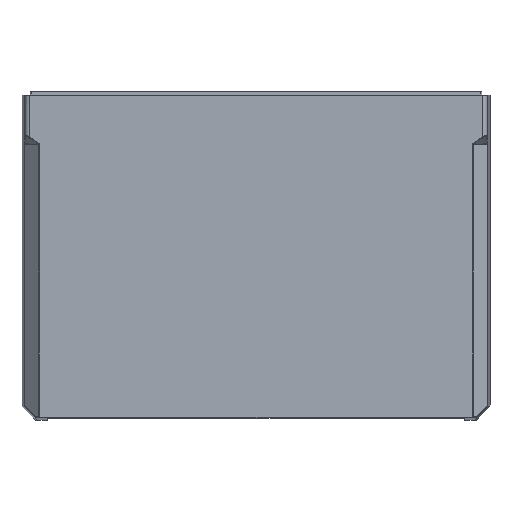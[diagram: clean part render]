
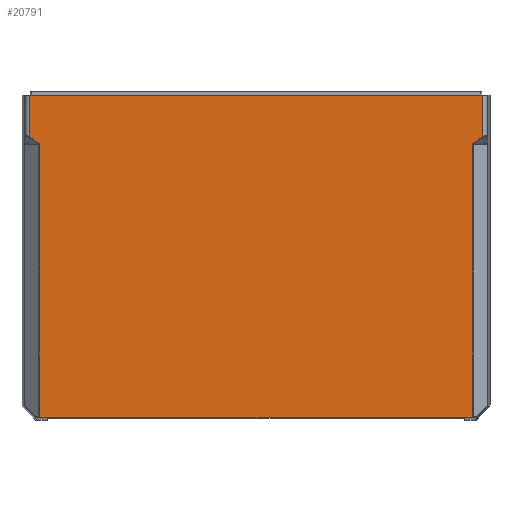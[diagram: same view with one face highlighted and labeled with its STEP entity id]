
A CAD part, front view. The second image highlights one B-rep face of the part: STEP entity #20791.
In plain terms, the highlighted planar face has unit normal (0, -1, 0).
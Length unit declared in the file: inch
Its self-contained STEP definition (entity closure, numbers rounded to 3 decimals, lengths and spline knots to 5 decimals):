
#369 = VECTOR ( 'NONE', #27700, 39.37008 ) ;
#1056 = LINE ( 'NONE', #10279, #369 ) ;
#1167 = VERTEX_POINT ( 'NONE', #24448 ) ;
#1895 = ORIENTED_EDGE ( 'NONE', *, *, #17209, .T. ) ;
#2364 = EDGE_CURVE ( 'NONE', #2920, #4524, #18246, .T. ) ;
#2920 = VERTEX_POINT ( 'NONE', #17864 ) ;
#3104 = EDGE_CURVE ( 'NONE', #5034, #1167, #20890, .T. ) ;
#3429 = VECTOR ( 'NONE', #19170, 39.37008 ) ;
#3485 = CARTESIAN_POINT ( 'NONE',  ( 4.27972, -1.181, 2.2224 ) ) ;
#4220 = EDGE_CURVE ( 'NONE', #8399, #21136, #4410, .T. ) ;
#4410 =( BOUNDED_CURVE ( )  B_SPLINE_CURVE ( 3, ( #20938, #3485, #5784, #23124 ),
 .UNSPECIFIED., .F., .F. ) 
 B_SPLINE_CURVE_WITH_KNOTS ( ( 4, 4 ),
 ( 2.35619, 3.14159 ),
 .UNSPECIFIED. ) 
 CURVE ( )  GEOMETRIC_REPRESENTATION_ITEM ( )  RATIONAL_B_SPLINE_CURVE ( ( 1., 0.949, 0.949, 1. ) ) 
 REPRESENTATION_ITEM ( '' )  );
#4524 = VERTEX_POINT ( 'NONE', #11111 ) ;
#5003 = LINE ( 'NONE', #21153, #11428 ) ;
#5034 = VERTEX_POINT ( 'NONE', #6546 ) ;
#5648 = ORIENTED_EDGE ( 'NONE', *, *, #25730, .T. ) ;
#5784 = CARTESIAN_POINT ( 'NONE',  ( 4.27374, -1.181, 2.21247 ) ) ;
#5943 = CARTESIAN_POINT ( 'NONE',  ( 4.25377, -1.181, -3.18811 ) ) ;
#5962 = AXIS2_PLACEMENT_3D ( 'NONE', #15246, #26182, #13182 ) ;
#6212 = CARTESIAN_POINT ( 'NONE',  ( -4.27374, -1.181, 2.20172 ) ) ;
#6546 = CARTESIAN_POINT ( 'NONE',  ( -4.4777, -1.181, 2.35868 ) ) ;
#6968 = ORIENTED_EDGE ( 'NONE', *, *, #25136, .F. ) ;
#7711 = CARTESIAN_POINT ( 'NONE',  ( -4.27374, -1.181, 2.20172 ) ) ;
#8108 = CARTESIAN_POINT ( 'NONE',  ( 4.26145, -1.181, -3.18811 ) ) ;
#8163 = DIRECTION ( 'NONE',  ( 0.824, 0., 0.567 ) ) ;
#8399 = VERTEX_POINT ( 'NONE', #8560 ) ;
#8542 = ORIENTED_EDGE ( 'NONE', *, *, #3104, .T. ) ;
#8560 = CARTESIAN_POINT ( 'NONE',  ( 4.29076, -1.181, 2.23 ) ) ;
#9123 = VERTEX_POINT ( 'NONE', #20740 ) ;
#9302 = FACE_OUTER_BOUND ( 'NONE', #27869, .T. ) ;
#9831 = CARTESIAN_POINT ( 'NONE',  ( -4.26145, -1.181, -3.18811 ) ) ;
#9850 = CARTESIAN_POINT ( 'NONE',  ( -4.27374, -1.181, 2.21247 ) ) ;
#10182 = CARTESIAN_POINT ( 'NONE',  ( 4.27374, -1.181, 2.20172 ) ) ;
#10246 = CARTESIAN_POINT ( 'NONE',  ( 4.27374, -1.181, -3.18241 ) ) ;
#10279 = CARTESIAN_POINT ( 'NONE',  ( -4.56311, -1.181, 3.18 ) ) ;
#10293 = EDGE_CURVE ( 'NONE', #8399, #2920, #5003, .T. ) ;
#10961 = PLANE ( 'NONE',  #5962 ) ;
#10975 = DIRECTION ( 'NONE',  ( -1., 0., 0. ) ) ;
#11111 = CARTESIAN_POINT ( 'NONE',  ( 4.4777, -1.181, 3.18 ) ) ;
#11428 = VECTOR ( 'NONE', #8163, 39.37008 ) ;
#11770 = VECTOR ( 'NONE', #12509, 39.37008 ) ;
#11913 = CARTESIAN_POINT ( 'NONE',  ( -4.26845, -1.181, -3.18611 ) ) ;
#12038 = CARTESIAN_POINT ( 'NONE',  ( -4.29076, -1.181, 2.23 ) ) ;
#12040 = DIRECTION ( 'NONE',  ( 0.824, 0., -0.567 ) ) ;
#12509 = DIRECTION ( 'NONE',  ( 0., 0., 1. ) ) ;
#12602 = CARTESIAN_POINT ( 'NONE',  ( -4.4777, -1.181, 2.4 ) ) ;
#12777 = DIRECTION ( 'NONE',  ( 0., 0., 1. ) ) ;
#13012 = VERTEX_POINT ( 'NONE', #6212 ) ;
#13182 = DIRECTION ( 'NONE',  ( 0., 0., 1. ) ) ;
#13462 = VERTEX_POINT ( 'NONE', #26274 ) ;
#13776 =( BOUNDED_CURVE ( )  B_SPLINE_CURVE ( 3, ( #18482, #11913, #9831, #25031 ),
 .UNSPECIFIED., .F., .F. ) 
 B_SPLINE_CURVE_WITH_KNOTS ( ( 4, 4 ),
 ( 0.72502, 1.49863 ),
 .UNSPECIFIED. ) 
 CURVE ( )  GEOMETRIC_REPRESENTATION_ITEM ( )  RATIONAL_B_SPLINE_CURVE ( ( 1., 0.951, 0.951, 1. ) ) 
 REPRESENTATION_ITEM ( '' )  );
#14280 = LINE ( 'NONE', #12602, #3429 ) ;
#14474 = EDGE_CURVE ( 'NONE', #13012, #9123, #17636, .T. ) ;
#14994 = VERTEX_POINT ( 'NONE', #26509 ) ;
#15246 = CARTESIAN_POINT ( 'NONE',  ( -4.625, -1.181, 3.25 ) ) ;
#15517 = EDGE_CURVE ( 'NONE', #13462, #15532, #20825, .T. ) ;
#15532 = VERTEX_POINT ( 'NONE', #26189 ) ;
#15792 = VECTOR ( 'NONE', #12040, 39.37008 ) ;
#16194 = VERTEX_POINT ( 'NONE', #24142 ) ;
#16485 = ORIENTED_EDGE ( 'NONE', *, *, #2364, .T. ) ;
#16714 =( BOUNDED_CURVE ( )  B_SPLINE_CURVE ( 3, ( #7711, #9850, #25052, #12038 ),
 .UNSPECIFIED., .F., .F. ) 
 B_SPLINE_CURVE_WITH_KNOTS ( ( 4, 4 ),
 ( 0., 0.7854 ),
 .UNSPECIFIED. ) 
 CURVE ( )  GEOMETRIC_REPRESENTATION_ITEM ( )  RATIONAL_B_SPLINE_CURVE ( ( 1., 0.949, 0.949, 1. ) ) 
 REPRESENTATION_ITEM ( '' )  );
#16813 = CARTESIAN_POINT ( 'NONE',  ( -4.27374, -1.181, -3.18811 ) ) ;
#17090 = ORIENTED_EDGE ( 'NONE', *, *, #19566, .T. ) ;
#17209 = EDGE_CURVE ( 'NONE', #16194, #5034, #14280, .T. ) ;
#17620 = EDGE_CURVE ( 'NONE', #9123, #15532, #13776, .T. ) ;
#17636 = LINE ( 'NONE', #16813, #18309 ) ;
#17864 = CARTESIAN_POINT ( 'NONE',  ( 4.4777, -1.181, 2.35868 ) ) ;
#18246 = LINE ( 'NONE', #25512, #11770 ) ;
#18309 = VECTOR ( 'NONE', #23363, 39.37008 ) ;
#18482 = CARTESIAN_POINT ( 'NONE',  ( -4.27374, -1.181, -3.18241 ) ) ;
#18611 = ORIENTED_EDGE ( 'NONE', *, *, #17620, .T. ) ;
#18950 = EDGE_CURVE ( 'NONE', #13012, #1167, #16714, .T. ) ;
#19170 = DIRECTION ( 'NONE',  ( 0., 0., -1. ) ) ;
#19185 = ORIENTED_EDGE ( 'NONE', *, *, #4220, .F. ) ;
#19566 = EDGE_CURVE ( 'NONE', #14994, #21136, #24671, .T. ) ;
#20137 = ORIENTED_EDGE ( 'NONE', *, *, #18950, .F. ) ;
#20740 = CARTESIAN_POINT ( 'NONE',  ( -4.27374, -1.181, -3.18241 ) ) ;
#20791 = ADVANCED_FACE ( 'NONE', ( #9302 ), #10961, .F. ) ;
#20825 = LINE ( 'NONE', #21811, #25248 ) ;
#20890 = LINE ( 'NONE', #25053, #15792 ) ;
#20938 = CARTESIAN_POINT ( 'NONE',  ( 4.29076, -1.181, 2.23 ) ) ;
#21136 = VERTEX_POINT ( 'NONE', #10182 ) ;
#21153 = CARTESIAN_POINT ( 'NONE',  ( -1.28222, -1.181, -1.60619 ) ) ;
#21811 = CARTESIAN_POINT ( 'NONE',  ( -4.625, -1.181, -3.18811 ) ) ;
#23124 = CARTESIAN_POINT ( 'NONE',  ( 4.27374, -1.181, 2.20172 ) ) ;
#23289 = CARTESIAN_POINT ( 'NONE',  ( 4.26845, -1.181, -3.18611 ) ) ;
#23363 = DIRECTION ( 'NONE',  ( 0., 0., -1. ) ) ;
#23581 = CARTESIAN_POINT ( 'NONE',  ( 4.27374, -1.181, 3.25 ) ) ;
#23967 = ORIENTED_EDGE ( 'NONE', *, *, #10293, .T. ) ;
#23987 = VECTOR ( 'NONE', #12777, 39.37008 ) ;
#24142 = CARTESIAN_POINT ( 'NONE',  ( -4.4777, -1.181, 3.18 ) ) ;
#24448 = CARTESIAN_POINT ( 'NONE',  ( -4.29076, -1.181, 2.23 ) ) ;
#24671 = LINE ( 'NONE', #23581, #23987 ) ;
#25031 = CARTESIAN_POINT ( 'NONE',  ( -4.25377, -1.181, -3.18811 ) ) ;
#25052 = CARTESIAN_POINT ( 'NONE',  ( -4.27972, -1.181, 2.2224 ) ) ;
#25053 = CARTESIAN_POINT ( 'NONE',  ( -4.99394, -1.181, 2.71403 ) ) ;
#25136 = EDGE_CURVE ( 'NONE', #16194, #4524, #1056, .T. ) ;
#25171 = ORIENTED_EDGE ( 'NONE', *, *, #14474, .T. ) ;
#25222 = ORIENTED_EDGE ( 'NONE', *, *, #15517, .F. ) ;
#25234 =( BOUNDED_CURVE ( )  B_SPLINE_CURVE ( 3, ( #5943, #8108, #23289, #10246 ),
 .UNSPECIFIED., .F., .F. ) 
 B_SPLINE_CURVE_WITH_KNOTS ( ( 4, 4 ),
 ( 1.64297, 2.41657 ),
 .UNSPECIFIED. ) 
 CURVE ( )  GEOMETRIC_REPRESENTATION_ITEM ( )  RATIONAL_B_SPLINE_CURVE ( ( 1., 0.951, 0.951, 1. ) ) 
 REPRESENTATION_ITEM ( '' )  );
#25248 = VECTOR ( 'NONE', #10975, 39.37008 ) ;
#25512 = CARTESIAN_POINT ( 'NONE',  ( 4.4777, -1.181, 3.18 ) ) ;
#25730 = EDGE_CURVE ( 'NONE', #13462, #14994, #25234, .T. ) ;
#26182 = DIRECTION ( 'NONE',  ( 0., 1., 0. ) ) ;
#26189 = CARTESIAN_POINT ( 'NONE',  ( -4.25377, -1.181, -3.18811 ) ) ;
#26274 = CARTESIAN_POINT ( 'NONE',  ( 4.25377, -1.181, -3.18811 ) ) ;
#26509 = CARTESIAN_POINT ( 'NONE',  ( 4.27374, -1.181, -3.18241 ) ) ;
#27700 = DIRECTION ( 'NONE',  ( 1., 0., 0. ) ) ;
#27869 = EDGE_LOOP ( 'NONE', ( #19185, #23967, #16485, #6968, #1895, #8542, #20137, #25171, #18611, #25222, #5648, #17090 ) ) ;
